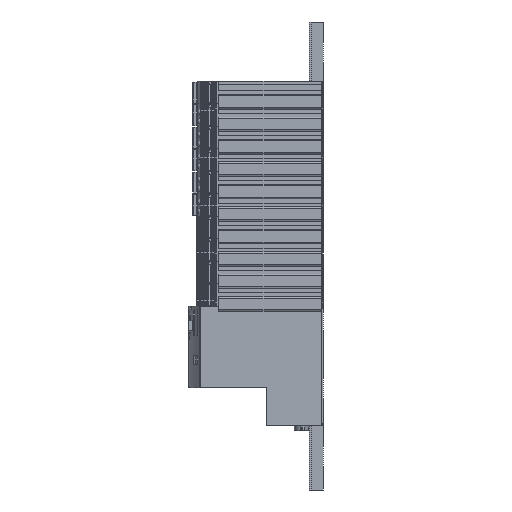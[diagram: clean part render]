
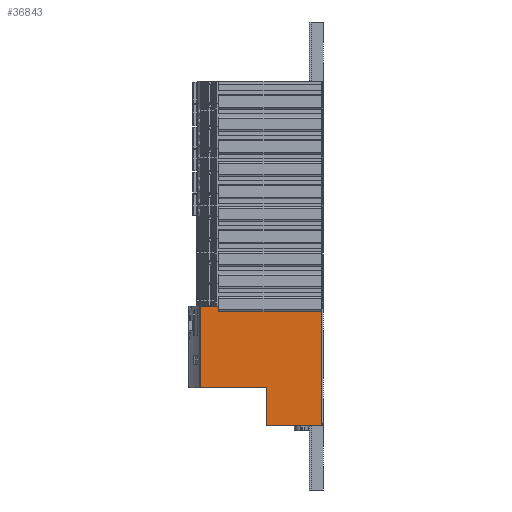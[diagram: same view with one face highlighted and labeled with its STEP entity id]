
A CAD part, left-side view. The second image highlights one B-rep face of the part: STEP entity #36843.
In plain terms, the highlighted planar face has unit normal (-1, 0, 0).
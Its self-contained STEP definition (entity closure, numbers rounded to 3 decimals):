
#2919=ORIENTED_EDGE('',*,*,#13945,.F.);
#2920=ORIENTED_EDGE('',*,*,#13946,.T.);
#2921=ORIENTED_EDGE('',*,*,#13947,.F.);
#2922=ORIENTED_EDGE('',*,*,#13948,.F.);
#2923=ORIENTED_EDGE('',*,*,#13949,.T.);
#2924=ORIENTED_EDGE('',*,*,#13950,.T.);
#2925=ORIENTED_EDGE('',*,*,#13951,.T.);
#2926=ORIENTED_EDGE('',*,*,#13952,.T.);
#2927=ORIENTED_EDGE('',*,*,#13783,.F.);
#13783=EDGE_CURVE('',#19338,#19339,#23048,.T.);
#13945=EDGE_CURVE('',#19466,#19338,#23146,.T.);
#13946=EDGE_CURVE('',#19466,#19467,#23147,.T.);
#13947=EDGE_CURVE('',#19468,#19467,#23148,.T.);
#13948=EDGE_CURVE('',#19469,#19468,#23149,.T.);
#13949=EDGE_CURVE('',#19469,#19470,#23150,.T.);
#13950=EDGE_CURVE('',#19470,#19471,#23151,.T.);
#13951=EDGE_CURVE('',#19471,#19472,#23152,.T.);
#13952=EDGE_CURVE('',#19472,#19339,#23153,.T.);
#19338=VERTEX_POINT('',#67963);
#19339=VERTEX_POINT('',#67965);
#19466=VERTEX_POINT('',#68346);
#19467=VERTEX_POINT('',#68348);
#19468=VERTEX_POINT('',#68350);
#19469=VERTEX_POINT('',#68352);
#19470=VERTEX_POINT('',#68354);
#19471=VERTEX_POINT('',#68356);
#19472=VERTEX_POINT('',#68358);
#23048=LINE('',#67964,#27080);
#23146=LINE('',#68345,#27178);
#23147=LINE('',#68347,#27179);
#23148=LINE('',#68349,#27180);
#23149=LINE('',#68351,#27181);
#23150=LINE('',#68353,#27182);
#23151=LINE('',#68355,#27183);
#23152=LINE('',#68357,#27184);
#23153=LINE('',#68359,#27185);
#27080=VECTOR('',#56871,1000.);
#27178=VECTOR('',#57105,1000.);
#27179=VECTOR('',#57106,1000.);
#27180=VECTOR('',#57107,1000.);
#27181=VECTOR('',#57108,1000.);
#27182=VECTOR('',#57109,1000.);
#27183=VECTOR('',#57110,1000.);
#27184=VECTOR('',#57111,1000.);
#27185=VECTOR('',#57112,1000.);
#31030=EDGE_LOOP('',(#2919,#2920,#2921,#2922,#2923,#2924,#2925,#2926,#2927));
#33275=FACE_BOUND('',#31030,.T.);
#35474=PLANE('',#53168);
#36843=ADVANCED_FACE('',(#33275),#35474,.F.);
#53168=AXIS2_PLACEMENT_3D('',#68344,#57103,#57104);
#56871=DIRECTION('',(0.,0.,-1.));
#57103=DIRECTION('',(1.,0.,0.));
#57104=DIRECTION('',(0.,0.,-1.));
#57105=DIRECTION('',(0.,-1.,0.));
#57106=DIRECTION('',(0.,0.,1.));
#57107=DIRECTION('',(0.,-1.,0.));
#57108=DIRECTION('',(0.,-1.,0.));
#57109=DIRECTION('',(0.,0.,-1.));
#57110=DIRECTION('',(0.,-1.,0.));
#57111=DIRECTION('',(0.,0.,-1.));
#57112=DIRECTION('',(0.,-1.,0.));
#67963=CARTESIAN_POINT('',(-33.,-6.4,64.9));
#67964=CARTESIAN_POINT('',(-33.,-6.4,22.8));
#67965=CARTESIAN_POINT('',(-33.,-6.4,2.5));
#68344=CARTESIAN_POINT('',(-33.,23.,22.8));
#68345=CARTESIAN_POINT('',(-33.,23.,64.9));
#68346=CARTESIAN_POINT('',(-33.,45.6,64.9));
#68347=CARTESIAN_POINT('',(-33.,45.6,22.8));
#68348=CARTESIAN_POINT('',(-33.,45.6,66.5));
#68349=CARTESIAN_POINT('',(-33.,23.,66.5));
#68350=CARTESIAN_POINT('',(-33.,48.4,66.5));
#68351=CARTESIAN_POINT('',(-33.,58.4,66.5));
#68352=CARTESIAN_POINT('',(-33.,58.4,66.5));
#68353=CARTESIAN_POINT('',(-33.,58.4,66.5));
#68354=CARTESIAN_POINT('',(-33.,58.4,22.8));
#68355=CARTESIAN_POINT('',(-33.,58.4,22.8));
#68356=CARTESIAN_POINT('',(-33.,23.,22.8));
#68357=CARTESIAN_POINT('',(-33.,23.,22.8));
#68358=CARTESIAN_POINT('',(-33.,23.,2.5));
#68359=CARTESIAN_POINT('',(-33.,23.,2.5));
